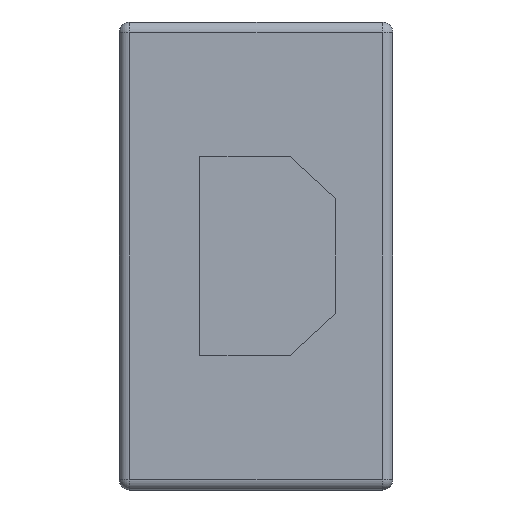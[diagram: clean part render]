
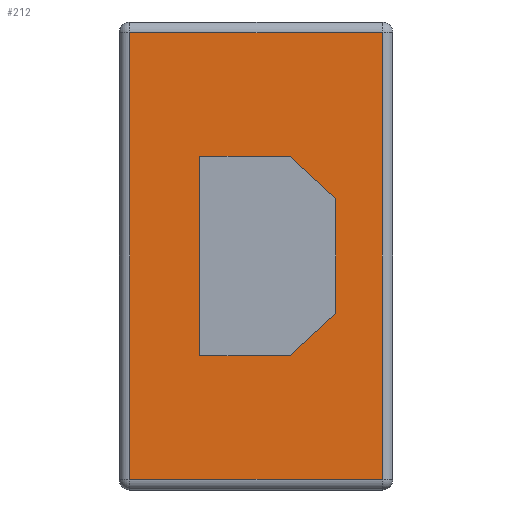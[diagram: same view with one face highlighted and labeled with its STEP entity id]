
A CAD part, left-side view. The second image highlights one B-rep face of the part: STEP entity #212.
In plain terms, the highlighted planar face has unit normal (-1, 0, 0).
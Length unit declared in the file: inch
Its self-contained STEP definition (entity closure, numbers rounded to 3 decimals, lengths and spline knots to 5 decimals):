
#2 = DIRECTION ( 'NONE',  ( 0., 0., 1. ) ) ;
#9 = DIRECTION ( 'NONE',  ( 1., 0., 0. ) ) ;
#27 = VERTEX_POINT ( 'NONE', #496 ) ;
#33 = EDGE_CURVE ( 'NONE', #373, #27, #349, .T. ) ;
#45 = ORIENTED_EDGE ( 'NONE', *, *, #283, .T. ) ;
#53 = CARTESIAN_POINT ( 'NONE',  ( -2.375, 0.27, 0.27 ) ) ;
#68 = CARTESIAN_POINT ( 'NONE',  ( -2.375, 0.4875, -0.47 ) ) ;
#78 = ORIENTED_EDGE ( 'NONE', *, *, #209, .F. ) ;
#79 = CARTESIAN_POINT ( 'NONE',  ( -2.375, 1.2875, -1.1 ) ) ;
#83 = CARTESIAN_POINT ( 'NONE',  ( -2.375, 1.2875, -1.05 ) ) ;
#84 = EDGE_LOOP ( 'NONE', ( #416, #631, #45, #850 ) ) ;
#89 = VECTOR ( 'NONE', #453, 39.37008 ) ;
#94 = CARTESIAN_POINT ( 'NONE',  ( -2.375, 0.27, -0.27 ) ) ;
#100 = LINE ( 'NONE', #68, #469 ) ;
#107 = LINE ( 'NONE', #379, #669 ) ;
#122 = LINE ( 'NONE', #83, #304 ) ;
#123 = DIRECTION ( 'NONE',  ( 0., 0., -1. ) ) ;
#141 = CARTESIAN_POINT ( 'NONE',  ( -2.375, 0.27, -0.27 ) ) ;
#157 = DIRECTION ( 'NONE',  ( 0., 1., 0. ) ) ;
#178 = ORIENTED_EDGE ( 'NONE', *, *, #33, .F. ) ;
#189 = ORIENTED_EDGE ( 'NONE', *, *, #748, .F. ) ;
#191 = CARTESIAN_POINT ( 'NONE',  ( -2.375, 0.4875, -0.47 ) ) ;
#197 = EDGE_CURVE ( 'NONE', #586, #778, #122, .T. ) ;
#209 = EDGE_CURVE ( 'NONE', #230, #253, #107, .T. ) ;
#212 = ADVANCED_FACE ( 'NONE', ( #862, #526 ), #824, .F. ) ;
#230 = VERTEX_POINT ( 'NONE', #94 ) ;
#231 = ORIENTED_EDGE ( 'NONE', *, *, #553, .F. ) ;
#234 = CARTESIAN_POINT ( 'NONE',  ( -2.375, 1.2375, -1.05 ) ) ;
#235 = EDGE_CURVE ( 'NONE', #363, #403, #475, .T. ) ;
#237 = LINE ( 'NONE', #426, #577 ) ;
#240 = DIRECTION ( 'NONE',  ( 0., 0., -1. ) ) ;
#253 = VERTEX_POINT ( 'NONE', #53 ) ;
#257 = EDGE_CURVE ( 'NONE', #403, #586, #423, .T. ) ;
#258 = VECTOR ( 'NONE', #944, 39.37008 ) ;
#283 = EDGE_CURVE ( 'NONE', #778, #363, #237, .T. ) ;
#284 = CARTESIAN_POINT ( 'NONE',  ( -2.375, 0.9075, 0.47 ) ) ;
#296 = CARTESIAN_POINT ( 'NONE',  ( -2.375, 1.2375, -1.1 ) ) ;
#303 = CARTESIAN_POINT ( 'NONE',  ( -2.375, 0.9075, 0.47 ) ) ;
#304 = VECTOR ( 'NONE', #307, 39.37008 ) ;
#307 = DIRECTION ( 'NONE',  ( 0., -1., 0. ) ) ;
#309 = LINE ( 'NONE', #894, #89 ) ;
#349 = LINE ( 'NONE', #502, #915 ) ;
#353 = DIRECTION ( 'NONE',  ( 0., 1., 0. ) ) ;
#363 = VERTEX_POINT ( 'NONE', #590 ) ;
#364 = DIRECTION ( 'NONE',  ( 0., -0.736, 0.677 ) ) ;
#373 = VERTEX_POINT ( 'NONE', #284 ) ;
#379 = CARTESIAN_POINT ( 'NONE',  ( -2.375, 0.27, 0.27 ) ) ;
#396 = AXIS2_PLACEMENT_3D ( 'NONE', #79, #9, #240 ) ;
#403 = VERTEX_POINT ( 'NONE', #604 ) ;
#416 = ORIENTED_EDGE ( 'NONE', *, *, #257, .T. ) ;
#423 = LINE ( 'NONE', #296, #258 ) ;
#426 = CARTESIAN_POINT ( 'NONE',  ( -2.375, 0.05, -1.1 ) ) ;
#453 = DIRECTION ( 'NONE',  ( 0., 0.736, 0.677 ) ) ;
#469 = VECTOR ( 'NONE', #520, 39.37008 ) ;
#475 = LINE ( 'NONE', #741, #644 ) ;
#496 = CARTESIAN_POINT ( 'NONE',  ( -2.375, 0.9075, -0.47 ) ) ;
#502 = CARTESIAN_POINT ( 'NONE',  ( -2.375, 0.9075, -0.47 ) ) ;
#520 = DIRECTION ( 'NONE',  ( 0., -1., 0. ) ) ;
#526 = FACE_OUTER_BOUND ( 'NONE', #84, .T. ) ;
#534 = EDGE_CURVE ( 'NONE', #253, #766, #309, .T. ) ;
#553 = EDGE_CURVE ( 'NONE', #766, #373, #846, .T. ) ;
#571 = EDGE_LOOP ( 'NONE', ( #189, #788, #178, #231, #948, #78 ) ) ;
#577 = VECTOR ( 'NONE', #595, 39.37008 ) ;
#586 = VERTEX_POINT ( 'NONE', #234 ) ;
#590 = CARTESIAN_POINT ( 'NONE',  ( -2.375, 0.05, 1.05 ) ) ;
#594 = CARTESIAN_POINT ( 'NONE',  ( -2.375, 0.05, -1.05 ) ) ;
#595 = DIRECTION ( 'NONE',  ( 0., 0., 1. ) ) ;
#604 = CARTESIAN_POINT ( 'NONE',  ( -2.375, 1.2375, 1.05 ) ) ;
#630 = VECTOR ( 'NONE', #157, 39.37008 ) ;
#631 = ORIENTED_EDGE ( 'NONE', *, *, #197, .T. ) ;
#644 = VECTOR ( 'NONE', #353, 39.37008 ) ;
#669 = VECTOR ( 'NONE', #2, 39.37008 ) ;
#682 = VECTOR ( 'NONE', #364, 39.37008 ) ;
#741 = CARTESIAN_POINT ( 'NONE',  ( -2.375, 1.2875, 1.05 ) ) ;
#748 = EDGE_CURVE ( 'NONE', #933, #230, #795, .T. ) ;
#766 = VERTEX_POINT ( 'NONE', #809 ) ;
#773 = EDGE_CURVE ( 'NONE', #27, #933, #100, .T. ) ;
#778 = VERTEX_POINT ( 'NONE', #594 ) ;
#788 = ORIENTED_EDGE ( 'NONE', *, *, #773, .F. ) ;
#795 = LINE ( 'NONE', #141, #682 ) ;
#809 = CARTESIAN_POINT ( 'NONE',  ( -2.375, 0.4875, 0.47 ) ) ;
#824 = PLANE ( 'NONE',  #396 ) ;
#846 = LINE ( 'NONE', #303, #630 ) ;
#850 = ORIENTED_EDGE ( 'NONE', *, *, #235, .T. ) ;
#862 = FACE_BOUND ( 'NONE', #571, .T. ) ;
#894 = CARTESIAN_POINT ( 'NONE',  ( -2.375, 0.4875, 0.47 ) ) ;
#915 = VECTOR ( 'NONE', #123, 39.37008 ) ;
#933 = VERTEX_POINT ( 'NONE', #191 ) ;
#944 = DIRECTION ( 'NONE',  ( 0., 0., -1. ) ) ;
#948 = ORIENTED_EDGE ( 'NONE', *, *, #534, .F. ) ;
